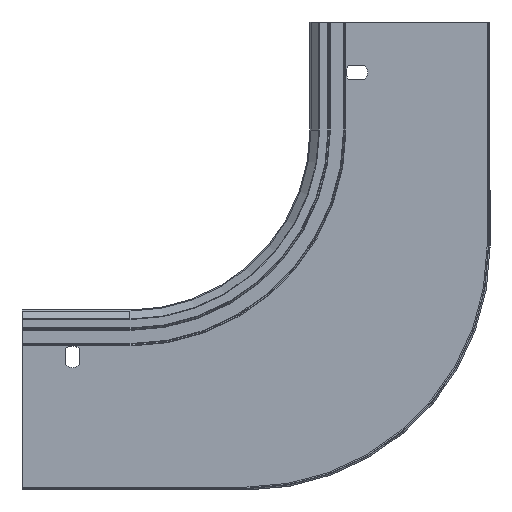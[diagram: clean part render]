
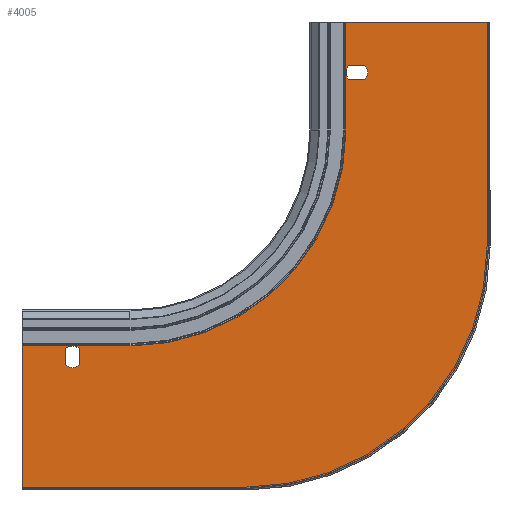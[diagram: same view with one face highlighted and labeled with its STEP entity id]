
A CAD part, left-side view. The second image highlights one B-rep face of the part: STEP entity #4005.
In plain terms, the highlighted planar face has unit normal (-1, 0, 0) as drawn and (0, -1, 0) by its records, which use the part's own axes.
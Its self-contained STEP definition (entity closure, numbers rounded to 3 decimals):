
#27 = VECTOR ( 'NONE', #2346, 1000. ) ;
#42 = LINE ( 'NONE', #5127, #2145 ) ;
#52 = EDGE_CURVE ( 'NONE', #3002, #941, #2052, .T. ) ;
#72 = VECTOR ( 'NONE', #5976, 1000. ) ;
#79 = ORIENTED_EDGE ( 'NONE', *, *, #4948, .F. ) ;
#97 = DIRECTION ( 'NONE',  ( -1., 0., 0. ) ) ;
#116 = EDGE_LOOP ( 'NONE', ( #4233, #2266, #2116, #3157, #450, #2550, #4186, #4832 ) ) ;
#153 = DIRECTION ( 'NONE',  ( 0., -1., 0. ) ) ;
#159 = EDGE_CURVE ( 'NONE', #340, #722, #3010, .T. ) ;
#218 = DIRECTION ( 'NONE',  ( 0., 0., -1. ) ) ;
#296 = AXIS2_PLACEMENT_3D ( 'NONE', #4222, #2802, #218 ) ;
#340 = VERTEX_POINT ( 'NONE', #3710 ) ;
#442 = VERTEX_POINT ( 'NONE', #5740 ) ;
#450 = ORIENTED_EDGE ( 'NONE', *, *, #2761, .F. ) ;
#478 = DIRECTION ( 'NONE',  ( 0., -1., 0. ) ) ;
#511 = AXIS2_PLACEMENT_3D ( 'NONE', #1492, #2910, #527 ) ;
#513 = AXIS2_PLACEMENT_3D ( 'NONE', #3263, #478, #5131 ) ;
#518 = EDGE_CURVE ( 'NONE', #5728, #2160, #1462, .T. ) ;
#527 = DIRECTION ( 'NONE',  ( 0., 0., -1. ) ) ;
#564 = CARTESIAN_POINT ( 'NONE',  ( 260., 0., -259. ) ) ;
#570 = CARTESIAN_POINT ( 'NONE',  ( 232., 0., -180. ) ) ;
#579 = CIRCLE ( 'NONE', #3669, 6. ) ;
#600 = FACE_BOUND ( 'NONE', #5888, .T. ) ;
#613 = LINE ( 'NONE', #1572, #4080 ) ;
#658 = DIRECTION ( 'NONE',  ( 0., 0., -1. ) ) ;
#659 = DIRECTION ( 'NONE',  ( 1., 0., 0. ) ) ;
#722 = VERTEX_POINT ( 'NONE', #5228 ) ;
#773 = DIRECTION ( 'NONE',  ( 0., 0., -1. ) ) ;
#798 = VECTOR ( 'NONE', #5613, 1000. ) ;
#841 = EDGE_CURVE ( 'NONE', #941, #4392, #3183, .T. ) ;
#941 = VERTEX_POINT ( 'NONE', #2489 ) ;
#987 = DIRECTION ( 'NONE',  ( 0., 1., 0. ) ) ;
#990 = AXIS2_PLACEMENT_3D ( 'NONE', #2420, #153, #4760 ) ;
#1043 = CARTESIAN_POINT ( 'NONE',  ( 135., 0., -125. ) ) ;
#1111 = EDGE_CURVE ( 'NONE', #2310, #1781, #579, .T. ) ;
#1114 = PLANE ( 'NONE',  #3901 ) ;
#1181 = CARTESIAN_POINT ( 'NONE',  ( 69.528, 0., -32. ) ) ;
#1346 = CARTESIAN_POINT ( 'NONE',  ( 0., 0., -24. ) ) ;
#1427 = VERTEX_POINT ( 'NONE', #2638 ) ;
#1457 = DIRECTION ( 'NONE',  ( 0., 0., -1. ) ) ;
#1458 = DIRECTION ( 'NONE',  ( 0., 0., -1. ) ) ;
#1462 = LINE ( 'NONE', #3313, #72 ) ;
#1492 = CARTESIAN_POINT ( 'NONE',  ( 232., 0., -186. ) ) ;
#1572 = CARTESIAN_POINT ( 'NONE',  ( 260., 0., -260. ) ) ;
#1599 = ORIENTED_EDGE ( 'NONE', *, *, #5165, .F. ) ;
#1658 = CARTESIAN_POINT ( 'NONE',  ( 78.472, 0., -24. ) ) ;
#1781 = VERTEX_POINT ( 'NONE', #1658 ) ;
#1830 = CARTESIAN_POINT ( 'NONE',  ( 260., 0., -259. ) ) ;
#1903 = CARTESIAN_POINT ( 'NONE',  ( 69.528, 0., -24. ) ) ;
#1967 = CIRCLE ( 'NONE', #513, 6. ) ;
#2001 = EDGE_CURVE ( 'NONE', #4392, #5728, #42, .T. ) ;
#2036 = LINE ( 'NONE', #3477, #5450 ) ;
#2052 = LINE ( 'NONE', #564, #5729 ) ;
#2115 = EDGE_CURVE ( 'NONE', #2669, #340, #4679, .T. ) ;
#2116 = ORIENTED_EDGE ( 'NONE', *, *, #52, .F. ) ;
#2118 = FACE_BOUND ( 'NONE', #4801, .T. ) ;
#2132 = ORIENTED_EDGE ( 'NONE', *, *, #5960, .F. ) ;
#2145 = VECTOR ( 'NONE', #4274, 1000. ) ;
#2160 = VERTEX_POINT ( 'NONE', #5005 ) ;
#2206 = ORIENTED_EDGE ( 'NONE', *, *, #159, .F. ) ;
#2266 = ORIENTED_EDGE ( 'NONE', *, *, #841, .F. ) ;
#2279 = EDGE_CURVE ( 'NONE', #3539, #2160, #2036, .T. ) ;
#2310 = VERTEX_POINT ( 'NONE', #4871 ) ;
#2346 = DIRECTION ( 'NONE',  ( -1., 0., 0. ) ) ;
#2366 = DIRECTION ( 'NONE',  ( 0., -1., 0. ) ) ;
#2383 = CARTESIAN_POINT ( 'NONE',  ( 80.331, 0., -60. ) ) ;
#2384 = EDGE_CURVE ( 'NONE', #2516, #3002, #613, .T. ) ;
#2420 = CARTESIAN_POINT ( 'NONE',  ( 232., 0., -186. ) ) ;
#2443 = CARTESIAN_POINT ( 'NONE',  ( 200., 0., -179.669 ) ) ;
#2489 = CARTESIAN_POINT ( 'NONE',  ( 135., 0., -259. ) ) ;
#2516 = VERTEX_POINT ( 'NONE', #3172 ) ;
#2550 = ORIENTED_EDGE ( 'NONE', *, *, #5157, .F. ) ;
#2638 = CARTESIAN_POINT ( 'NONE',  ( 236., 0., -181.528 ) ) ;
#2669 = VERTEX_POINT ( 'NONE', #570 ) ;
#2761 = EDGE_CURVE ( 'NONE', #3699, #2516, #3349, .T. ) ;
#2767 = LINE ( 'NONE', #1346, #27 ) ;
#2802 = DIRECTION ( 'NONE',  ( 0., -1., 0. ) ) ;
#2824 = LINE ( 'NONE', #5583, #798 ) ;
#2837 = ORIENTED_EDGE ( 'NONE', *, *, #4685, .F. ) ;
#2854 = DIRECTION ( 'NONE',  ( 0., -1., 0. ) ) ;
#2910 = DIRECTION ( 'NONE',  ( 0., -1., 0. ) ) ;
#2937 = ORIENTED_EDGE ( 'NONE', *, *, #5841, .F. ) ;
#2983 = FACE_OUTER_BOUND ( 'NONE', #116, .T. ) ;
#3002 = VERTEX_POINT ( 'NONE', #1830 ) ;
#3010 = LINE ( 'NONE', #5463, #4160 ) ;
#3018 = CARTESIAN_POINT ( 'NONE',  ( 0., 0., 0. ) ) ;
#3122 = CIRCLE ( 'NONE', #3593, 119.669 ) ;
#3157 = ORIENTED_EDGE ( 'NONE', *, *, #2384, .F. ) ;
#3172 = CARTESIAN_POINT ( 'NONE',  ( 260., 0., -179.669 ) ) ;
#3183 = CIRCLE ( 'NONE', #3665, 134. ) ;
#3216 = ORIENTED_EDGE ( 'NONE', *, *, #1111, .F. ) ;
#3263 = CARTESIAN_POINT ( 'NONE',  ( 74., 0., -28. ) ) ;
#3313 = CARTESIAN_POINT ( 'NONE',  ( 80., 0., 0. ) ) ;
#3349 = LINE ( 'NONE', #2443, #4580 ) ;
#3420 = DIRECTION ( 'NONE',  ( 0., 0., -1. ) ) ;
#3465 = CARTESIAN_POINT ( 'NONE',  ( 1., 0., 0. ) ) ;
#3477 = CARTESIAN_POINT ( 'NONE',  ( 80.331, 0., -60. ) ) ;
#3539 = VERTEX_POINT ( 'NONE', #2383 ) ;
#3554 = LINE ( 'NONE', #4026, #5577 ) ;
#3593 = AXIS2_PLACEMENT_3D ( 'NONE', #5678, #2854, #1458 ) ;
#3604 = VERTEX_POINT ( 'NONE', #1181 ) ;
#3665 = AXIS2_PLACEMENT_3D ( 'NONE', #1043, #987, #5618 ) ;
#3669 = AXIS2_PLACEMENT_3D ( 'NONE', #5547, #2366, #1457 ) ;
#3699 = VERTEX_POINT ( 'NONE', #5388 ) ;
#3710 = CARTESIAN_POINT ( 'NONE',  ( 228., 0., -181.528 ) ) ;
#3889 = EDGE_CURVE ( 'NONE', #5594, #3604, #1967, .T. ) ;
#3901 = AXIS2_PLACEMENT_3D ( 'NONE', #3018, #4893, #658 ) ;
#4005 = ADVANCED_FACE ( 'NONE', ( #600, #2118, #2983 ), #1114, .T. ) ;
#4026 = CARTESIAN_POINT ( 'NONE',  ( 236., 0., 0. ) ) ;
#4080 = VECTOR ( 'NONE', #3420, 1000. ) ;
#4160 = VECTOR ( 'NONE', #773, 1000. ) ;
#4186 = ORIENTED_EDGE ( 'NONE', *, *, #2279, .T. ) ;
#4222 = CARTESIAN_POINT ( 'NONE',  ( 232., 0., -186. ) ) ;
#4233 = ORIENTED_EDGE ( 'NONE', *, *, #2001, .F. ) ;
#4274 = DIRECTION ( 'NONE',  ( 0., 0., 1. ) ) ;
#4322 = DIRECTION ( 'NONE',  ( 0., 0., 1. ) ) ;
#4386 = ORIENTED_EDGE ( 'NONE', *, *, #3889, .F. ) ;
#4392 = VERTEX_POINT ( 'NONE', #5555 ) ;
#4493 = CIRCLE ( 'NONE', #990, 6. ) ;
#4580 = VECTOR ( 'NONE', #659, 1000. ) ;
#4679 = CIRCLE ( 'NONE', #296, 6. ) ;
#4685 = EDGE_CURVE ( 'NONE', #3604, #2310, #2824, .T. ) ;
#4760 = DIRECTION ( 'NONE',  ( 0., 0., -1. ) ) ;
#4801 = EDGE_LOOP ( 'NONE', ( #1599, #2206, #5159, #79, #2937 ) ) ;
#4832 = ORIENTED_EDGE ( 'NONE', *, *, #518, .F. ) ;
#4871 = CARTESIAN_POINT ( 'NONE',  ( 78.472, 0., -32. ) ) ;
#4893 = DIRECTION ( 'NONE',  ( 0., -1., 0. ) ) ;
#4948 = EDGE_CURVE ( 'NONE', #1427, #2669, #4493, .T. ) ;
#5005 = CARTESIAN_POINT ( 'NONE',  ( 80.331, 0., 0. ) ) ;
#5127 = CARTESIAN_POINT ( 'NONE',  ( 1., 0., -125. ) ) ;
#5131 = DIRECTION ( 'NONE',  ( 0., 0., -1. ) ) ;
#5157 = EDGE_CURVE ( 'NONE', #3539, #3699, #3122, .T. ) ;
#5159 = ORIENTED_EDGE ( 'NONE', *, *, #2115, .F. ) ;
#5165 = EDGE_CURVE ( 'NONE', #722, #442, #5770, .T. ) ;
#5228 = CARTESIAN_POINT ( 'NONE',  ( 228., 0., -190.472 ) ) ;
#5388 = CARTESIAN_POINT ( 'NONE',  ( 200., 0., -179.669 ) ) ;
#5433 = DIRECTION ( 'NONE',  ( 0., 0., 1. ) ) ;
#5450 = VECTOR ( 'NONE', #4322, 1000. ) ;
#5463 = CARTESIAN_POINT ( 'NONE',  ( 228., 0., 0. ) ) ;
#5547 = CARTESIAN_POINT ( 'NONE',  ( 74., 0., -28. ) ) ;
#5555 = CARTESIAN_POINT ( 'NONE',  ( 1., 0., -125. ) ) ;
#5577 = VECTOR ( 'NONE', #5433, 1000. ) ;
#5583 = CARTESIAN_POINT ( 'NONE',  ( 0., 0., -32. ) ) ;
#5594 = VERTEX_POINT ( 'NONE', #1903 ) ;
#5613 = DIRECTION ( 'NONE',  ( 1., 0., 0. ) ) ;
#5618 = DIRECTION ( 'NONE',  ( 0., 0., 1. ) ) ;
#5678 = CARTESIAN_POINT ( 'NONE',  ( 200., 0., -60. ) ) ;
#5728 = VERTEX_POINT ( 'NONE', #3465 ) ;
#5729 = VECTOR ( 'NONE', #97, 1000. ) ;
#5740 = CARTESIAN_POINT ( 'NONE',  ( 236., 0., -190.472 ) ) ;
#5770 = CIRCLE ( 'NONE', #511, 6. ) ;
#5841 = EDGE_CURVE ( 'NONE', #442, #1427, #3554, .T. ) ;
#5888 = EDGE_LOOP ( 'NONE', ( #4386, #2132, #3216, #2837 ) ) ;
#5960 = EDGE_CURVE ( 'NONE', #1781, #5594, #2767, .T. ) ;
#5976 = DIRECTION ( 'NONE',  ( 1., 0., 0. ) ) ;
